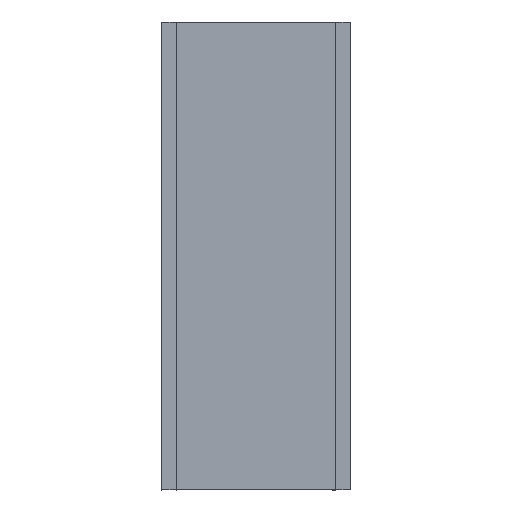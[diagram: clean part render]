
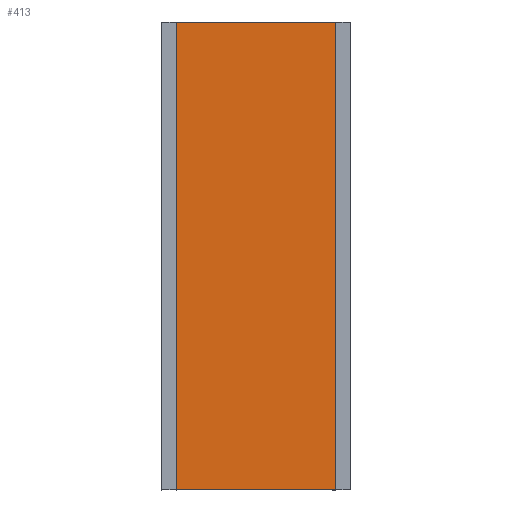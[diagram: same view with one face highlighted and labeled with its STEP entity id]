
A CAD part, front view. The second image highlights one B-rep face of the part: STEP entity #413.
In plain terms, the highlighted planar face has unit normal (0, -1, 0).
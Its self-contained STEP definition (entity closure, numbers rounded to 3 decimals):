
#46 = CARTESIAN_POINT ( 'NONE',  ( 102., 0., -250. ) ) ;
#55 = DIRECTION ( 'NONE',  ( 0., 0., 1. ) ) ;
#127 = VERTEX_POINT ( 'NONE', #730 ) ;
#141 = VERTEX_POINT ( 'NONE', #167 ) ;
#148 = CARTESIAN_POINT ( 'NONE',  ( 0., 0., 0. ) ) ;
#164 = VECTOR ( 'NONE', #55, 1000. ) ;
#167 = CARTESIAN_POINT ( 'NONE',  ( 17., 0., -250. ) ) ;
#236 = DIRECTION ( 'NONE',  ( 1., 0., 0. ) ) ;
#240 = LINE ( 'NONE', #831, #254 ) ;
#254 = VECTOR ( 'NONE', #1016, 1000. ) ;
#318 = CARTESIAN_POINT ( 'NONE',  ( 0., 0., -250. ) ) ;
#323 = PLANE ( 'NONE',  #701 ) ;
#356 = VERTEX_POINT ( 'NONE', #472 ) ;
#413 = ADVANCED_FACE ( 'NONE', ( #1206 ), #323, .T. ) ;
#416 = EDGE_LOOP ( 'NONE', ( #932, #595, #893, #576 ) ) ;
#472 = CARTESIAN_POINT ( 'NONE',  ( 17., 0., 0. ) ) ;
#474 = EDGE_CURVE ( 'NONE', #356, #127, #509, .T. ) ;
#509 = LINE ( 'NONE', #148, #707 ) ;
#576 = ORIENTED_EDGE ( 'NONE', *, *, #474, .F. ) ;
#595 = ORIENTED_EDGE ( 'NONE', *, *, #808, .T. ) ;
#631 = DIRECTION ( 'NONE',  ( 0., -1., 0. ) ) ;
#699 = VERTEX_POINT ( 'NONE', #1057 ) ;
#701 = AXIS2_PLACEMENT_3D ( 'NONE', #318, #631, #1132 ) ;
#707 = VECTOR ( 'NONE', #236, 1000. ) ;
#715 = EDGE_CURVE ( 'NONE', #699, #127, #952, .T. ) ;
#730 = CARTESIAN_POINT ( 'NONE',  ( 102., 0., 0. ) ) ;
#763 = VECTOR ( 'NONE', #788, 1000. ) ;
#788 = DIRECTION ( 'NONE',  ( 1., 0., 0. ) ) ;
#808 = EDGE_CURVE ( 'NONE', #141, #699, #1280, .T. ) ;
#831 = CARTESIAN_POINT ( 'NONE',  ( 17., 0., -250. ) ) ;
#893 = ORIENTED_EDGE ( 'NONE', *, *, #715, .T. ) ;
#932 = ORIENTED_EDGE ( 'NONE', *, *, #1246, .F. ) ;
#952 = LINE ( 'NONE', #46, #164 ) ;
#1016 = DIRECTION ( 'NONE',  ( 0., 0., 1. ) ) ;
#1057 = CARTESIAN_POINT ( 'NONE',  ( 102., 0., -250. ) ) ;
#1132 = DIRECTION ( 'NONE',  ( 0., 0., -1. ) ) ;
#1206 = FACE_OUTER_BOUND ( 'NONE', #416, .T. ) ;
#1246 = EDGE_CURVE ( 'NONE', #141, #356, #240, .T. ) ;
#1274 = CARTESIAN_POINT ( 'NONE',  ( 0., 0., -250. ) ) ;
#1280 = LINE ( 'NONE', #1274, #763 ) ;
